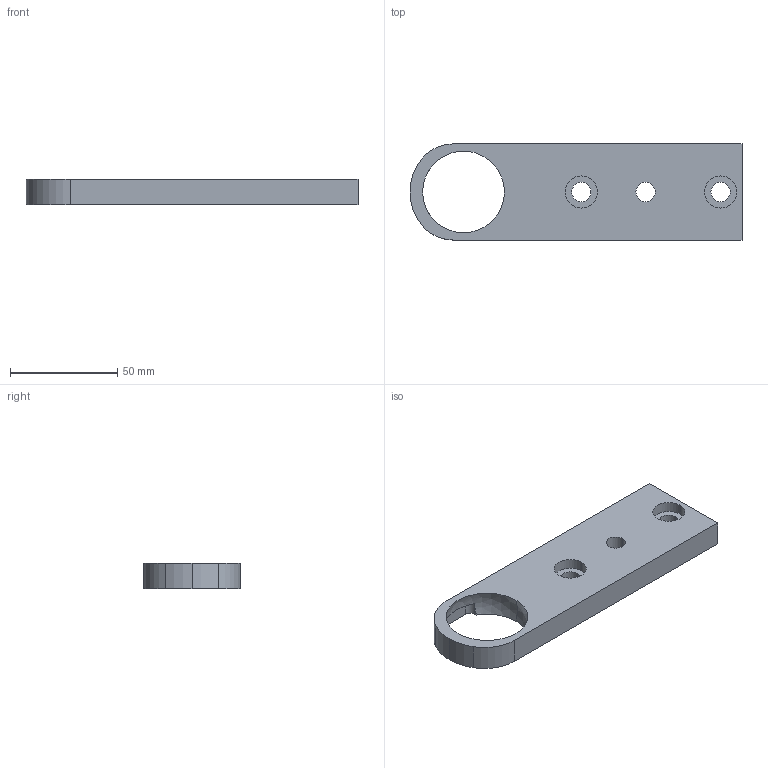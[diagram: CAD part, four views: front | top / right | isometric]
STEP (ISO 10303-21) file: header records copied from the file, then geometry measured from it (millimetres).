
FILE_DESCRIPTION (( 'STEP AP203' ), '1' );
FILE_NAME ('356.001.029.STEP', '2013-01-29T12:44:03', ( 'Alusic' ), ( 'Alusic' ), 'SwSTEP 2.0', 'SolidWorks 2011', '' );
FILE_SCHEMA (( 'CONFIG_CONTROL_DESIGN' ));
Length unit declared in the file: millimetre
Products named in the file (1): 356.001.029
Bounding box: 155 x 45 x 12 mm (x, y, z)
Volume: 62430.1 mm3; surface area: 18277.7 mm2
Topology: 1 solids, 1 shells, 38 faces, 103 edges, 68 vertices
Faces by surface type: cylinder 20, plane 16, sphere 2
Entity records: 1294 total; most frequent: DIRECTION 227, CARTESIAN_POINT 216, ORIENTED_EDGE 198, EDGE_CURVE 99, AXIS2_PLACEMENT_3D 93, VERTEX_POINT 66, CIRCLE 54, EDGE_LOOP 49
